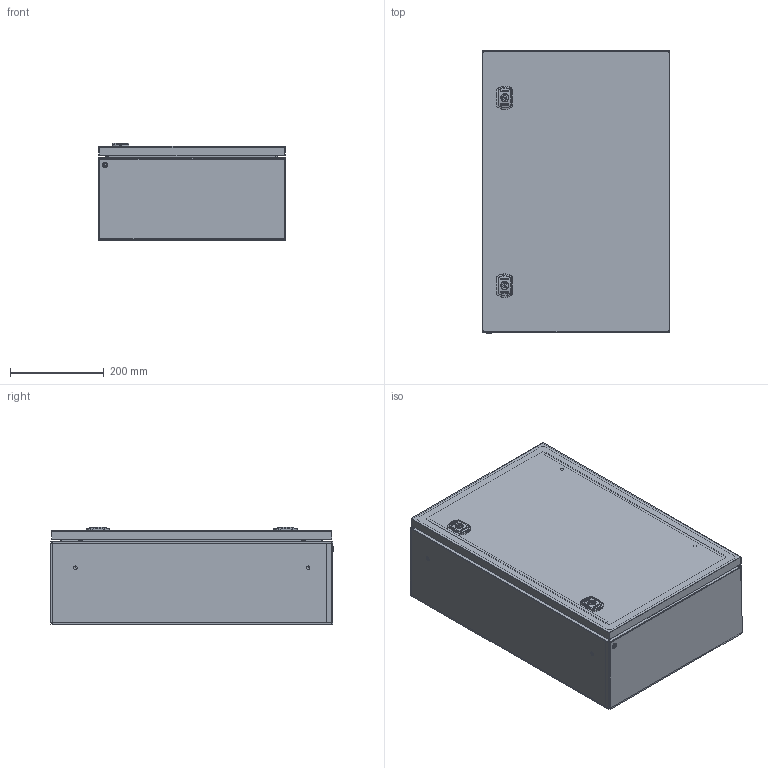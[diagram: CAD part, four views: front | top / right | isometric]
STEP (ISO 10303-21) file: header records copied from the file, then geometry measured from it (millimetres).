
FILE_DESCRIPTION(('Open CASCADE Model'),'2;1');
FILE_NAME('Open CASCADE Shape Model','2025-01-21T00:07:47',('Author'),( 'Open CASCADE'),'Open CASCADE STEP processor 7.8','Open CASCADE 7.8' ,'Unknown');
FILE_SCHEMA(('AUTOMOTIVE_DESIGN { 1 0 10303 214 1 1 1 1 }'));
Length unit declared in the file: millimetre
Products named in the file (29): Compound1; Compound2; Compound3; Compound4; Solid1; Solid2; Solid3; Solid4; Compound5; Solid5; Solid6; Solid7; Solid8; Compound6; Compound7; Solid9; Solid10; Solid11; Solid12; Compound8; Solid13; Solid14; Solid15; Solid16; Solid17; Solid18; Solid19; Solid20; Solid21
Assembly tree (51 placements, depth 5):
  Compound1
    Compound2
      Compound3
        Compound4
          Solid1
          Solid2
          Solid3  x4
          Solid4  x4
        Compound5  x2
          Solid5
        Solid6  x2
        Solid7  x2
        Solid8  x2
      Compound6
        Compound7
          Solid9
          Solid10  x2
          Solid11  x2
        Solid12
        Compound8  x2
          Solid13
          Solid14
          Solid15
          Solid16
          Solid17
      Solid18  x4
      Solid19
      Solid20  x4
    Solid21  x5
Bounding box: 400 x 601 x 208.01 mm (x, y, z)
Volume: 1866715.6 mm3; surface area: 2520257.5 mm2
Topology: 48 solids, 48 shells, 4218 faces, 10768 edges, 6814 vertices
Faces by surface type: plane 1967, cylinder 1236, bspline 513, torus 274, cone 164, sphere 56, revolution 8
Full cylindrical faces by diameter (mm): 4 x36, 5.5 x4, 8 x5
Entity records: 152359 total; most frequent: CARTESIAN_POINT 87260, ORIENTED_EDGE 13876, DIRECTION 12619, EDGE_CURVE 6938, VERTEX_POINT 4440, LINE 4373, VECTOR 4373, AXIS2_PLACEMENT_3D 4121
